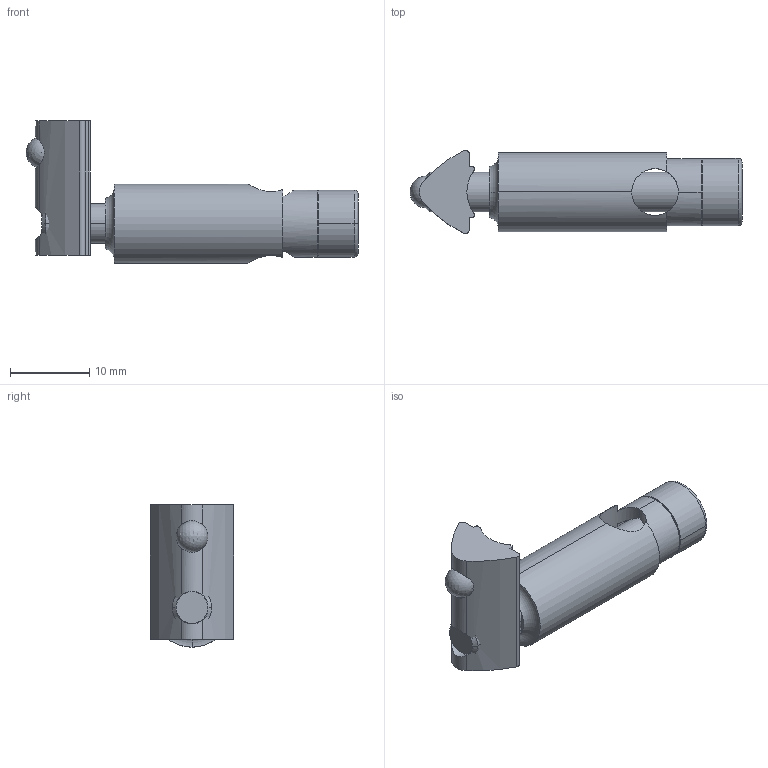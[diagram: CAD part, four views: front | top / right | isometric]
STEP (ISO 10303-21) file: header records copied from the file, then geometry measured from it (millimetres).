
FILE_DESCRIPTION (( 'STEP AP203' ), '1' );
FILE_NAME ('0106GFS4100.STEP', '2024-09-03T09:46:13', ( 'Windows-Benutzer' ), ( '' ), 'SwSTEP 2.0', 'SolidWorks 2024', '' );
FILE_SCHEMA (( 'CONFIG_CONTROL_DESIGN' ));
Length unit declared in the file: millimetre
Products named in the file (1): 0106GFS4100
Bounding box: 42 x 10.51 x 18 mm (x, y, z)
Volume: 2899.3 mm3; surface area: 2783.4 mm2
Topology: 3 solids, 3 shells, 110 faces, 284 edges, 173 vertices
Faces by surface type: plane 66, cylinder 31, cone 6, torus 6, sphere 1
Entity records: 3682 total; most frequent: CARTESIAN_POINT 985, ORIENTED_EDGE 558, DIRECTION 537, EDGE_CURVE 279, AXIS2_PLACEMENT_3D 191, VERTEX_POINT 171, LINE 155, VECTOR 155
